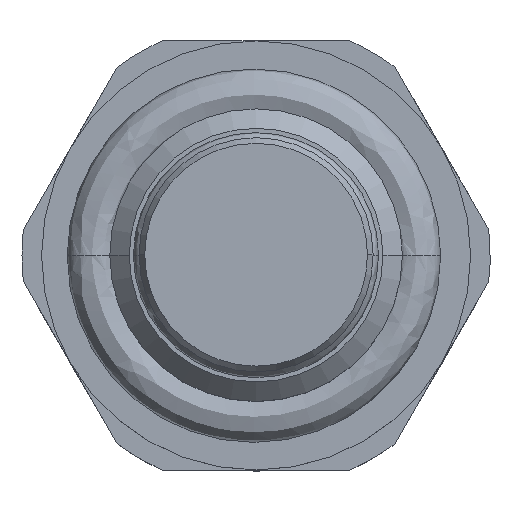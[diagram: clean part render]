
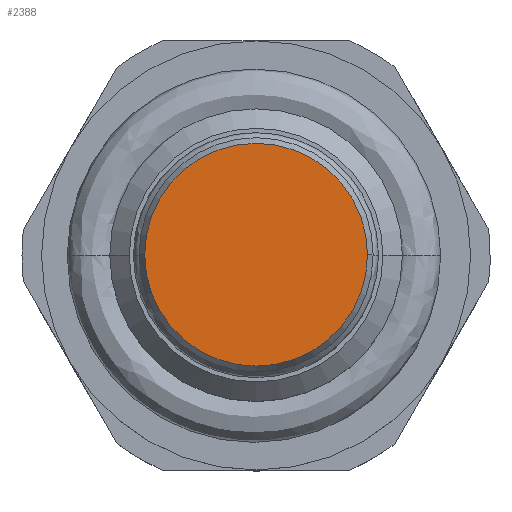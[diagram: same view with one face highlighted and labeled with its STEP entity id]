
A CAD part, top view. The second image highlights one B-rep face of the part: STEP entity #2388.
In plain terms, the highlighted planar face has unit normal (0, 0, 1).
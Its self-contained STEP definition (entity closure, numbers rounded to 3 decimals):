
#197 = ORIENTED_EDGE ( 'NONE', *, *, #2314, .T. ) ;
#1554 = CARTESIAN_POINT ( 'NONE',  ( 0., 0., 26.5 ) ) ;
#2314 = EDGE_CURVE ( 'NONE', #12435, #18124, #2699, .T. ) ;
#2317 = CARTESIAN_POINT ( 'NONE',  ( 5.711, 0., 26.5 ) ) ;
#2388 = ADVANCED_FACE ( 'NONE', ( #22731 ), #7071, .T. ) ;
#2699 = CIRCLE ( 'NONE', #18234, 5.711 ) ;
#2972 = CARTESIAN_POINT ( 'NONE',  ( 0., 0., 26.5 ) ) ;
#3135 = CARTESIAN_POINT ( 'NONE',  ( 0., 0., 26.5 ) ) ;
#3512 = DIRECTION ( 'NONE',  ( 1., 0., 0. ) ) ;
#4112 = CIRCLE ( 'NONE', #5332, 5.711 ) ;
#4955 = DIRECTION ( 'NONE',  ( 1., 0., 0. ) ) ;
#5332 = AXIS2_PLACEMENT_3D ( 'NONE', #1554, #15116, #3512 ) ;
#7071 = PLANE ( 'NONE',  #22134 ) ;
#8994 = DIRECTION ( 'NONE',  ( 0., 0., 1. ) ) ;
#9948 = ORIENTED_EDGE ( 'NONE', *, *, #24970, .T. ) ;
#12435 = VERTEX_POINT ( 'NONE', #20685 ) ;
#15116 = DIRECTION ( 'NONE',  ( 0., 0., 1. ) ) ;
#16506 = DIRECTION ( 'NONE',  ( 0., 0., 1. ) ) ;
#18124 = VERTEX_POINT ( 'NONE', #2317 ) ;
#18234 = AXIS2_PLACEMENT_3D ( 'NONE', #2972, #16506, #4955 ) ;
#20685 = CARTESIAN_POINT ( 'NONE',  ( -5.711, 0., 26.5 ) ) ;
#21580 = EDGE_LOOP ( 'NONE', ( #197, #9948 ) ) ;
#22134 = AXIS2_PLACEMENT_3D ( 'NONE', #3135, #8994, #22557 ) ;
#22557 = DIRECTION ( 'NONE',  ( 1., 0., 0. ) ) ;
#22731 = FACE_OUTER_BOUND ( 'NONE', #21580, .T. ) ;
#24970 = EDGE_CURVE ( 'NONE', #18124, #12435, #4112, .T. ) ;
